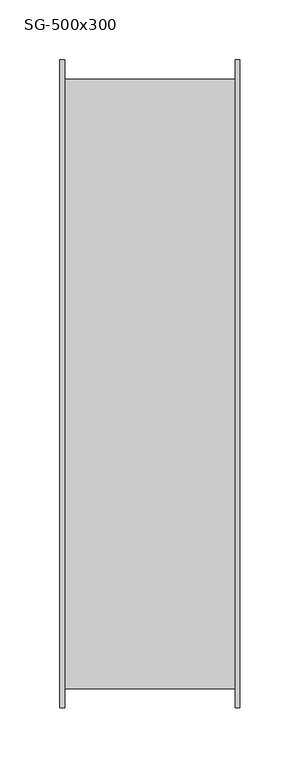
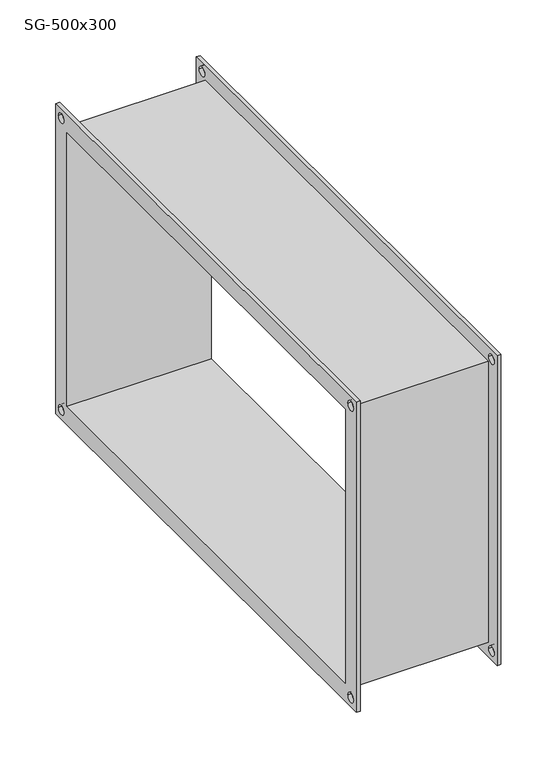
"""IFC4 building model written with IfcOpenShell, lengths in millimetres: damper geometry, СВ_ГибкаяВставка_КанальнаяПрямоугольная_200-1000_SG : SG-500x300."""

from ifc_helpers import new_model, si_unit, frame, origin, place, context, project, spatial, polyline, circle_curve, source, transform, mapped, element, save
from ifc_brep_helpers import plane_surface, revolved_surface, advanced_brep


def sg_500x300_5d0ab898(model_context):
    return source(origin(), model_context, "Body", "AdvancedBrep", [
        advanced_brep(
        [(71.0, -254.0, 154.0), (-71.0, -254.0, 154.0), (-71.0, -254.0, -154.0), (71.0, -254.0, -154.0), (-71.0, 254.0, -154.0), (71.0, 254.0, -154.0), (-71.0, 254.0, 154.0), (71.0, 254.0, 154.0), (-75.0, -270.0, 170.0), (-75.0, 270.0, 170.0), (-75.0, 270.0, -170.0), (-75.0, -270.0, -170.0), (-75.0, -250.0, 150.0), (-75.0, -250.0, -150.0), (-75.0, 250.0, -150.0), (-75.0, 250.0, 150.0), (-75.0, 255.0, 160.0), (-75.0, 265.0, 160.0), (-75.0, 255.0, -160.0), (-75.0, 265.0, -160.0), (-75.0, -265.0, 160.0), (-75.0, -255.0, 160.0), (-75.0, -265.0, -160.0), (-75.0, -255.0, -160.0), (-71.0, -270.0, 170.0), (-71.0, -270.0, -170.0), (-71.0, 270.0, -170.0), (-71.0, 270.0, 170.0), (-71.0, 265.0, 160.0), (-71.0, 255.0, 160.0), (-71.0, 265.0, -160.0), (-71.0, 255.0, -160.0), (-71.0, -255.0, 160.0), (-71.0, -265.0, 160.0), (-71.0, -255.0, -160.0), (-71.0, -265.0, -160.0), (71.0, 270.0, 170.0), (71.0, 270.0, -170.0), (71.0, -270.0, -170.0), (71.0, -270.0, 170.0), (71.0, 255.0, 160.0), (71.0, 265.0, 160.0), (71.0, 255.0, -160.0), (71.0, 265.0, -160.0), (71.0, -265.0, 160.0), (71.0, -255.0, 160.0), (71.0, -265.0, -160.0), (71.0, -255.0, -160.0), (75.0, 270.0, 170.0), (75.0, -270.0, 170.0), (75.0, -270.0, -170.0), (75.0, 270.0, -170.0), (75.0, 250.0, 150.0), (75.0, 250.0, -150.0), (75.0, -250.0, -150.0), (75.0, -250.0, 150.0), (75.0, 265.0, 160.0), (75.0, 255.0, 160.0), (75.0, 265.0, -160.0), (75.0, 255.0, -160.0), (75.0, -255.0, 160.0), (75.0, -265.0, 160.0), (75.0, -255.0, -160.0), (75.0, -265.0, -160.0)],
        [
            (0, 1),
            (1, 2),
            (2, 3),
            (3, 0),
            (2, 4),
            (4, 5),
            (5, 3),
            (4, 6),
            (6, 7),
            (7, 5),
            (0, 7),
            (6, 1),
            (8, 9),
            (9, 10),
            (10, 11),
            (11, 8),
            (12, 13),
            (13, 14),
            (14, 15),
            (15, 12),
            (16, 17, circle_curve(frame((-75.0, 260.0, 160.0), z_axis=(1.0, 0.0, 0.0), x_axis=(0.0, 1.0, 0.0)), 5.0)),
            (17, 16, circle_curve(frame((-75.0, 260.0, 160.0), z_axis=(1.0, 0.0, 0.0), x_axis=(0.0, 1.0, 0.0)), 5.0)),
            (18, 19, circle_curve(frame((-75.0, 260.0, -160.0), z_axis=(1.0, 0.0, 0.0), x_axis=(0.0, 1.0, 0.0)), 5.0)),
            (19, 18, circle_curve(frame((-75.0, 260.0, -160.0), z_axis=(1.0, 0.0, 0.0), x_axis=(0.0, 1.0, 0.0)), 5.0)),
            (20, 21, circle_curve(frame((-75.0, -260.0, 160.0), z_axis=(1.0, 0.0, 0.0), x_axis=(0.0, 1.0, 0.0)), 5.0)),
            (21, 20, circle_curve(frame((-75.0, -260.0, 160.0), z_axis=(1.0, 0.0, 0.0), x_axis=(0.0, 1.0, 0.0)), 5.0)),
            (22, 23, circle_curve(frame((-75.0, -260.0, -160.0), z_axis=(1.0, 0.0, 0.0), x_axis=(0.0, 1.0, 0.0)), 5.0)),
            (23, 22, circle_curve(frame((-75.0, -260.0, -160.0), z_axis=(1.0, 0.0, 0.0), x_axis=(0.0, 1.0, 0.0)), 5.0)),
            (24, 25),
            (25, 26),
            (26, 27),
            (27, 24),
            (28, 29, circle_curve(frame((-71.0, 260.0, 160.0), z_axis=(-1.0, 0.0, 0.0), x_axis=(0.0, 1.0, 0.0)), 5.0)),
            (29, 28, circle_curve(frame((-71.0, 260.0, 160.0), z_axis=(-1.0, 0.0, 0.0), x_axis=(0.0, 1.0, 0.0)), 5.0)),
            (30, 31, circle_curve(frame((-71.0, 260.0, -160.0), z_axis=(-1.0, 0.0, 0.0), x_axis=(0.0, 1.0, 0.0)), 5.0)),
            (31, 30, circle_curve(frame((-71.0, 260.0, -160.0), z_axis=(-1.0, 0.0, 0.0), x_axis=(0.0, 1.0, 0.0)), 5.0)),
            (32, 33, circle_curve(frame((-71.0, -260.0, 160.0), z_axis=(-1.0, 0.0, 0.0), x_axis=(0.0, 1.0, 0.0)), 5.0)),
            (33, 32, circle_curve(frame((-71.0, -260.0, 160.0), z_axis=(-1.0, 0.0, 0.0), x_axis=(0.0, 1.0, 0.0)), 5.0)),
            (34, 35, circle_curve(frame((-71.0, -260.0, -160.0), z_axis=(-1.0, 0.0, 0.0), x_axis=(0.0, 1.0, 0.0)), 5.0)),
            (35, 34, circle_curve(frame((-71.0, -260.0, -160.0), z_axis=(-1.0, 0.0, 0.0), x_axis=(0.0, 1.0, 0.0)), 5.0)),
            (11, 25),
            (24, 8),
            (10, 26),
            (9, 27),
            (36, 37),
            (37, 38),
            (38, 39),
            (39, 36),
            (40, 41, circle_curve(frame((71.0, 260.0, 160.0), z_axis=(1.0, 0.0, 0.0), x_axis=(0.0, 1.0, 0.0)), 5.0)),
            (41, 40, circle_curve(frame((71.0, 260.0, 160.0), z_axis=(1.0, 0.0, 0.0), x_axis=(0.0, 1.0, 0.0)), 5.0)),
            (42, 43, circle_curve(frame((71.0, 260.0, -160.0), z_axis=(1.0, 0.0, 0.0), x_axis=(0.0, 1.0, 0.0)), 5.0)),
            (43, 42, circle_curve(frame((71.0, 260.0, -160.0), z_axis=(1.0, 0.0, 0.0), x_axis=(0.0, 1.0, 0.0)), 5.0)),
            (44, 45, circle_curve(frame((71.0, -260.0, 160.0), z_axis=(1.0, 0.0, 0.0), x_axis=(0.0, 1.0, 0.0)), 5.0)),
            (45, 44, circle_curve(frame((71.0, -260.0, 160.0), z_axis=(1.0, 0.0, 0.0), x_axis=(0.0, 1.0, 0.0)), 5.0)),
            (46, 47, circle_curve(frame((71.0, -260.0, -160.0), z_axis=(1.0, 0.0, 0.0), x_axis=(0.0, 1.0, 0.0)), 5.0)),
            (47, 46, circle_curve(frame((71.0, -260.0, -160.0), z_axis=(1.0, 0.0, 0.0), x_axis=(0.0, 1.0, 0.0)), 5.0)),
            (48, 49),
            (49, 50),
            (50, 51),
            (51, 48),
            (52, 53),
            (53, 54),
            (54, 55),
            (55, 52),
            (56, 57, circle_curve(frame((75.0, 260.0, 160.0), z_axis=(-1.0, 0.0, 0.0), x_axis=(0.0, 1.0, 0.0)), 5.0)),
            (57, 56, circle_curve(frame((75.0, 260.0, 160.0), z_axis=(-1.0, 0.0, 0.0), x_axis=(0.0, 1.0, 0.0)), 5.0)),
            (58, 59, circle_curve(frame((75.0, 260.0, -160.0), z_axis=(-1.0, 0.0, 0.0), x_axis=(0.0, 1.0, 0.0)), 5.0)),
            (59, 58, circle_curve(frame((75.0, 260.0, -160.0), z_axis=(-1.0, 0.0, 0.0), x_axis=(0.0, 1.0, 0.0)), 5.0)),
            (60, 61, circle_curve(frame((75.0, -260.0, 160.0), z_axis=(-1.0, 0.0, 0.0), x_axis=(0.0, 1.0, 0.0)), 5.0)),
            (61, 60, circle_curve(frame((75.0, -260.0, 160.0), z_axis=(-1.0, 0.0, 0.0), x_axis=(0.0, 1.0, 0.0)), 5.0)),
            (62, 63, circle_curve(frame((75.0, -260.0, -160.0), z_axis=(-1.0, 0.0, 0.0), x_axis=(0.0, 1.0, 0.0)), 5.0)),
            (63, 62, circle_curve(frame((75.0, -260.0, -160.0), z_axis=(-1.0, 0.0, 0.0), x_axis=(0.0, 1.0, 0.0)), 5.0)),
            (39, 49),
            (48, 36),
            (38, 50),
            (37, 51),
            (15, 52),
            (55, 12),
            (14, 53),
            (13, 54),
            (16, 29),
            (28, 17),
            (40, 57),
            (56, 41),
            (18, 31),
            (30, 19),
            (42, 59),
            (58, 43),
            (20, 33),
            (32, 21),
            (44, 61),
            (60, 45),
            (22, 35),
            (34, 23),
            (46, 63),
            (62, 47),
        ],
        [
            plane_surface(frame((71.0, -254.0, 154.0), z_axis=(0.0, -1.0, 0.0), x_axis=(-1.0, 0.0, 0.0))),
            plane_surface(frame((71.0, -254.0, -154.0), z_axis=(0.0, 0.0, -1.0), x_axis=(-1.0, 0.0, 0.0))),
            plane_surface(frame((71.0, 254.0, -154.0), z_axis=(0.0, 1.0, 0.0), x_axis=(-1.0, 0.0, 0.0))),
            plane_surface(frame((71.0, 254.0, 154.0), z_axis=(0.0, 0.0, 1.0), x_axis=(-1.0, 0.0, 0.0))),
            plane_surface(frame((-75.0, -270.0, 170.0), z_axis=(-1.0, 0.0, 0.0), x_axis=(0.0, 0.0, 1.0))),
            plane_surface(frame((-71.0, -270.0, 170.0), z_axis=(1.0, 0.0, 0.0), x_axis=(0.0, 0.0, -1.0))),
            plane_surface(frame((-71.0, -270.0, 170.0), z_axis=(0.0, -1.0, 0.0), x_axis=(-1.0, 0.0, 0.0))),
            plane_surface(frame((-71.0, -270.0, -170.0), z_axis=(0.0, 0.0, -1.0), x_axis=(-1.0, 0.0, 0.0))),
            plane_surface(frame((-71.0, 270.0, -170.0), z_axis=(0.0, 1.0, 0.0), x_axis=(-1.0, 0.0, 0.0))),
            plane_surface(frame((-71.0, 270.0, 170.0), z_axis=(0.0, 0.0, 1.0), x_axis=(-1.0, 0.0, 0.0))),
            plane_surface(frame((71.0, 250.0, -150.0), z_axis=(-1.0, 0.0, 0.0), x_axis=(0.0, 0.0, 1.0))),
            plane_surface(frame((75.0, 250.0, -150.0), z_axis=(1.0, 0.0, 0.0), x_axis=(0.0, 0.0, -1.0))),
            plane_surface(frame((75.0, 270.0, 170.0), z_axis=(0.0, 0.0, 1.0), x_axis=(-1.0, 0.0, 0.0))),
            plane_surface(frame((75.0, -270.0, 170.0), z_axis=(0.0, -1.0, 0.0), x_axis=(-1.0, 0.0, 0.0))),
            plane_surface(frame((75.0, -270.0, -170.0), z_axis=(0.0, 0.0, -1.0), x_axis=(-1.0, 0.0, 0.0))),
            plane_surface(frame((75.0, 270.0, -170.0), z_axis=(0.0, 1.0, 0.0), x_axis=(-1.0, 0.0, 0.0))),
            plane_surface(frame((-71.0, -250.0, 150.0), z_axis=(0.0, 0.0, -1.0), x_axis=(-1.0, 0.0, 0.0))),
            plane_surface(frame((-71.0, 250.0, 150.0), z_axis=(0.0, -1.0, 0.0), x_axis=(-1.0, 0.0, 0.0))),
            plane_surface(frame((-71.0, 250.0, -150.0), z_axis=(0.0, 0.0, 1.0), x_axis=(-1.0, 0.0, 0.0))),
            plane_surface(frame((-71.0, -250.0, -150.0), z_axis=(0.0, 1.0, 0.0), x_axis=(-1.0, 0.0, 0.0))),
            revolved_surface(polyline([(-71.0, 265.0, 160.0), (-75.0, 265.0, 160.0)]), (-75.0, 260.0, 160.0), (1.0, 0.0, 0.0)),
            revolved_surface(polyline([(75.0, 265.0, 160.0), (71.0, 265.0, 160.0)]), (-75.0, 260.0, 160.0), (1.0, 0.0, 0.0)),
            revolved_surface(polyline([(-71.0, 265.0, -160.0), (-75.0, 265.0, -160.0)]), (0.0, 260.0, -160.0), (1.0, 0.0, 0.0)),
            revolved_surface(polyline([(75.0, 265.0, -160.0), (71.0, 265.0, -160.0)]), (0.0, 260.0, -160.0), (1.0, 0.0, 0.0)),
            revolved_surface(polyline([(-71.0, -255.0, 160.0), (-75.0, -255.0, 160.0)]), (0.0, -260.0, 160.0), (1.0, 0.0, 0.0)),
            revolved_surface(polyline([(75.0, -255.0, 160.0), (71.0, -255.0, 160.0)]), (0.0, -260.0, 160.0), (1.0, 0.0, 0.0)),
            revolved_surface(polyline([(-71.0, -255.0, -160.0), (-75.0, -255.0, -160.0)]), (0.0, -260.0, -160.0), (1.0, 0.0, 0.0)),
            revolved_surface(polyline([(75.0, -255.0, -160.0), (71.0, -255.0, -160.0)]), (0.0, -260.0, -160.0), (1.0, 0.0, 0.0)),
        ],
        [
            (0, [[1, 2, 3, 4]]),
            (1, [[-3, 5, 6, 7]]),
            (2, [[-6, 8, 9, 10]]),
            (3, [[-1, 11, -9, 12]]),
            (4, [[13, 14, 15, 16], [17, 18, 19, 20], [21, 22], [23, 24], [25, 26], [27, 28]]),
            (5, [[29, 30, 31, 32], [-2, -12, -8, -5], [33, 34], [35, 36], [37, 38], [39, 40]]),
            (6, [[-16, 41, -29, 42]]),
            (7, [[-15, 43, -30, -41]]),
            (8, [[-14, 44, -31, -43]]),
            (9, [[-13, -42, -32, -44]]),
            (10, [[45, 46, 47, 48], [-4, -7, -10, -11], [49, 50], [51, 52], [53, 54], [55, 56]]),
            (11, [[57, 58, 59, 60], [61, 62, 63, 64], [65, 66], [67, 68], [69, 70], [71, 72]]),
            (12, [[-48, 73, -57, 74]]),
            (13, [[-47, 75, -58, -73]]),
            (14, [[-46, 76, -59, -75]]),
            (15, [[-45, -74, -60, -76]]),
            (16, [[-20, 77, -64, 78]]),
            (17, [[-77, -19, 79, -61]]),
            (18, [[-79, -18, 80, -62]]),
            (19, [[-80, -17, -78, -63]]),
            (20, [[81, -33, 82, -21]]),
            (21, [[83, -65, 84, -49]]),
            (20, [[-81, -22, -82, -34]]),
            (21, [[-83, -50, -84, -66]]),
            (22, [[85, -35, 86, -23]]),
            (23, [[87, -67, 88, -51]]),
            (22, [[-85, -24, -86, -36]]),
            (23, [[-87, -52, -88, -68]]),
            (24, [[89, -37, 90, -25]]),
            (25, [[91, -69, 92, -53]]),
            (24, [[-89, -26, -90, -38]]),
            (25, [[-91, -54, -92, -70]]),
            (26, [[93, -39, 94, -27]]),
            (27, [[95, -71, 96, -55]]),
            (26, [[-93, -28, -94, -40]]),
            (27, [[-95, -56, -96, -72]]),
        ],
    ),
    ])


if __name__ == "__main__":
    model = new_model("IFC4")
    model_context = context("Model", 3, world=origin())
    ifc_project = project(units=[si_unit("LENGTHUNIT", "METRE", prefix="MILLI")], contexts=[model_context])
    site = spatial("IfcSite", under=ifc_project)
    building = spatial("IfcBuilding", under=site)
    placement = place(None, origin())
    sg_500x300_shape = sg_500x300_5d0ab898(model_context)
    element("IfcDamper", 1, ObjectType="СВ_ГибкаяВставка_КанальнаяПрямоугольная_200-1000_SG : SG-500x300", at=placement, inside=building, context=model_context, shape_type="MappedRepresentation", body=[
        mapped(sg_500x300_shape, transform((0.0, 0.0, 0.0), x_axis=(1.0, 0.0, 0.0), y_axis=(0.0, 1.0, 0.0), z_axis=(0.0, 0.0, 1.0))),
    ])
    save(model, "model.ifc")
